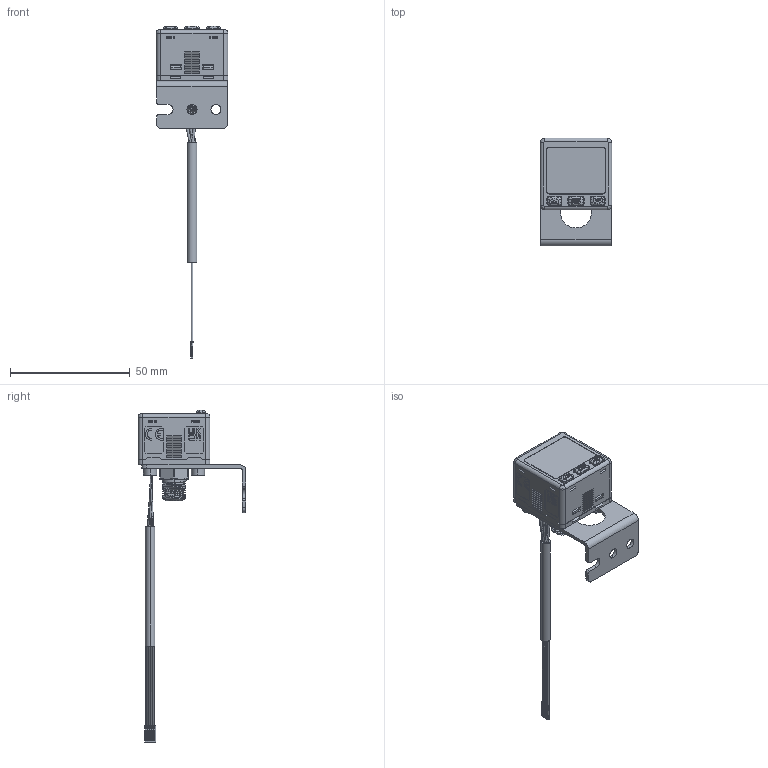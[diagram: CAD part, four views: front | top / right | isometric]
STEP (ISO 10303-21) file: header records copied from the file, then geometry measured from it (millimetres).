
FILE_DESCRIPTION((''),'2;1');
FILE_NAME('KP48E_BT-22','2024-12-12T',('tommy'),(''),'CREO PARAMETRIC BY PTC INC, 2014500','CREO PARAMETRIC BY PTC INC, 2014500','');
FILE_SCHEMA(('CONFIG_CONTROL_DESIGN'));
Products named in the file (1): KP48E_BT-22
Bounding box: 30 x 45 x 138.55 mm (x, y, z)
Volume: 10754.9 mm3; surface area: 17451.7 mm2
Topology: 1 solids, 1 shells, 2954 faces, 8443 edges, 5417 vertices
Faces by surface type: plane 1832, cylinder 553, bspline 248, extrusion 216, cone 101, torus 4
Entity records: 126596 total; most frequent: CARTESIAN_POINT 52201, ORIENTED_EDGE 16820, DIRECTION 13314, EDGE_CURVE 8410, VECTOR 5796, LINE 5580, VERTEX_POINT 5417, AXIS2_PLACEMENT_3D 3759
